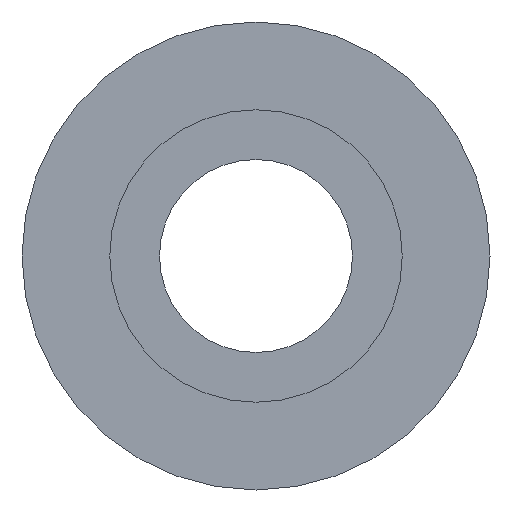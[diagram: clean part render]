
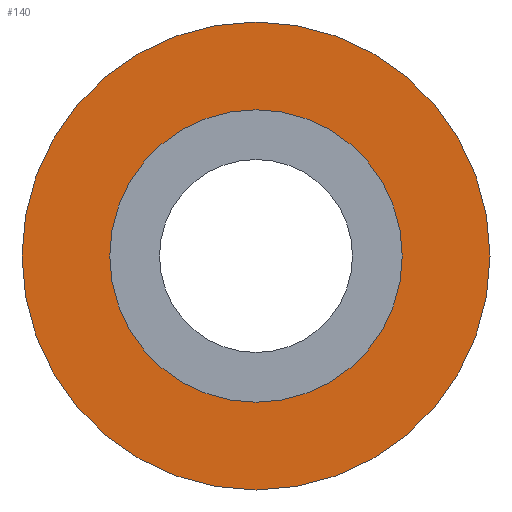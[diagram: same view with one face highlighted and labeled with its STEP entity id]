
A CAD part, front view. The second image highlights one B-rep face of the part: STEP entity #140.
In plain terms, the highlighted planar face has unit normal (0, -1, 0).
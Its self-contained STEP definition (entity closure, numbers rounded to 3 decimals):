
#31 = CYLINDRICAL_SURFACE('',#32,4.);
#32 = AXIS2_PLACEMENT_3D('',#33,#34,#35);
#33 = CARTESIAN_POINT('',(-38.,-26.7,30.));
#34 = DIRECTION('',(0.,1.,0.));
#35 = DIRECTION('',(0.,-0.,1.));
#56 = VERTEX_POINT('',#57);
#57 = CARTESIAN_POINT('',(-38.,-26.7,34.));
#78 = EDGE_CURVE('',#56,#56,#79,.T.);
#79 = SURFACE_CURVE('',#80,(#85,#92),.PCURVE_S1.);
#80 = CIRCLE('',#81,4.);
#81 = AXIS2_PLACEMENT_3D('',#82,#83,#84);
#82 = CARTESIAN_POINT('',(-38.,-26.7,30.));
#83 = DIRECTION('',(0.,1.,0.));
#84 = DIRECTION('',(0.,-0.,1.));
#85 = PCURVE('',#31,#86);
#86 = DEFINITIONAL_REPRESENTATION('',(#87),#91);
#87 = LINE('',#88,#89);
#88 = CARTESIAN_POINT('',(0.,0.));
#89 = VECTOR('',#90,1.);
#90 = DIRECTION('',(1.,0.));
#91 = ( GEOMETRIC_REPRESENTATION_CONTEXT(2) 
PARAMETRIC_REPRESENTATION_CONTEXT() REPRESENTATION_CONTEXT('2D SPACE',''
  ) );
#92 = PCURVE('',#93,#98);
#93 = PLANE('',#94);
#94 = AXIS2_PLACEMENT_3D('',#95,#96,#97);
#95 = CARTESIAN_POINT('',(-38.,-26.7,30.));
#96 = DIRECTION('',(0.,1.,0.));
#97 = DIRECTION('',(0.,-0.,1.));
#98 = DEFINITIONAL_REPRESENTATION('',(#99),#103);
#99 = CIRCLE('',#100,4.);
#100 = AXIS2_PLACEMENT_2D('',#101,#102);
#101 = CARTESIAN_POINT('',(0.,0.));
#102 = DIRECTION('',(1.,0.));
#103 = ( GEOMETRIC_REPRESENTATION_CONTEXT(2) 
PARAMETRIC_REPRESENTATION_CONTEXT() REPRESENTATION_CONTEXT('2D SPACE',''
  ) );
#140 = ADVANCED_FACE('',(#141,#144),#93,.F.);
#141 = FACE_BOUND('',#142,.F.);
#142 = EDGE_LOOP('',(#143));
#143 = ORIENTED_EDGE('',*,*,#78,.T.);
#144 = FACE_BOUND('',#145,.F.);
#145 = EDGE_LOOP('',(#146));
#146 = ORIENTED_EDGE('',*,*,#147,.F.);
#147 = EDGE_CURVE('',#148,#148,#150,.T.);
#148 = VERTEX_POINT('',#149);
#149 = CARTESIAN_POINT('',(-38.,-26.7,32.5));
#150 = SURFACE_CURVE('',#151,(#156,#163),.PCURVE_S1.);
#151 = CIRCLE('',#152,2.5);
#152 = AXIS2_PLACEMENT_3D('',#153,#154,#155);
#153 = CARTESIAN_POINT('',(-38.,-26.7,30.));
#154 = DIRECTION('',(0.,1.,0.));
#155 = DIRECTION('',(0.,-0.,1.));
#156 = PCURVE('',#93,#157);
#157 = DEFINITIONAL_REPRESENTATION('',(#158),#162);
#158 = CIRCLE('',#159,2.5);
#159 = AXIS2_PLACEMENT_2D('',#160,#161);
#160 = CARTESIAN_POINT('',(0.,0.));
#161 = DIRECTION('',(1.,0.));
#162 = ( GEOMETRIC_REPRESENTATION_CONTEXT(2) 
PARAMETRIC_REPRESENTATION_CONTEXT() REPRESENTATION_CONTEXT('2D SPACE',''
  ) );
#163 = PCURVE('',#164,#169);
#164 = CYLINDRICAL_SURFACE('',#165,2.5);
#165 = AXIS2_PLACEMENT_3D('',#166,#167,#168);
#166 = CARTESIAN_POINT('',(-38.,-30.3,30.));
#167 = DIRECTION('',(0.,1.,0.));
#168 = DIRECTION('',(0.,-0.,1.));
#169 = DEFINITIONAL_REPRESENTATION('',(#170),#174);
#170 = LINE('',#171,#172);
#171 = CARTESIAN_POINT('',(0.,3.6));
#172 = VECTOR('',#173,1.);
#173 = DIRECTION('',(1.,0.));
#174 = ( GEOMETRIC_REPRESENTATION_CONTEXT(2) 
PARAMETRIC_REPRESENTATION_CONTEXT() REPRESENTATION_CONTEXT('2D SPACE',''
  ) );
